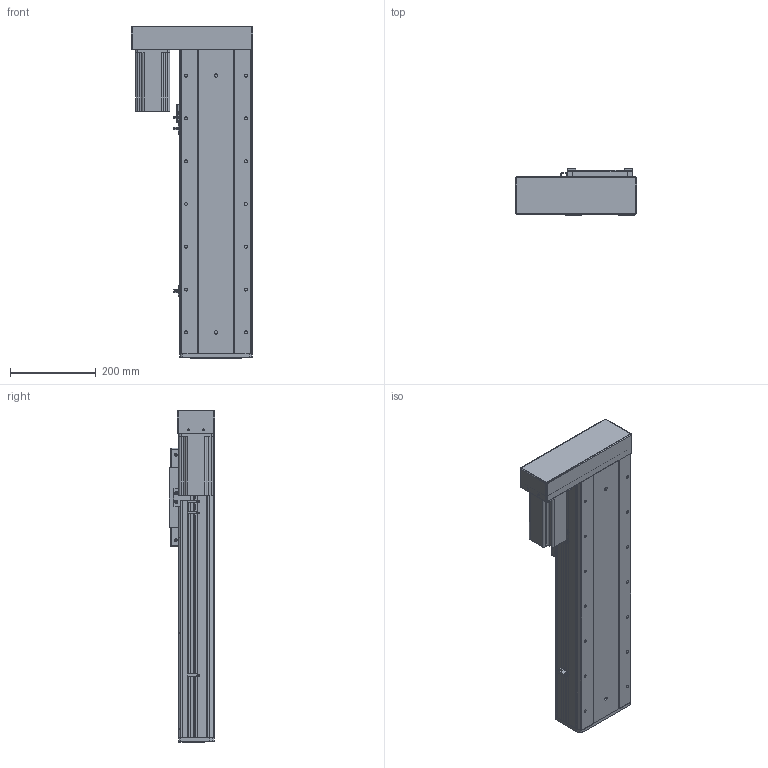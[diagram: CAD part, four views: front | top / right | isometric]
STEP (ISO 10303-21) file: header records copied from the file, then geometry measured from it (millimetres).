
FILE_DESCRIPTION (( 'STEP AP203' ), '1' );
FILE_NAME ('RY170F-L2020-300-LK.SLDASM_400.step', '2021-03-02T09:00:24', ( '盈信电脑' ), ( '东莞市道滘镇水果街19号' ), 'SwSTEP 2.0', 'SolidWorks 2012', '' );
FILE_SCHEMA (( 'CONFIG_CONTROL_DESIGN' ));
Length unit declared in the file: millimetre
Products named in the file (20): RY170F-L2020-300-LK.SLDASM_400; 怢湛750W萇儂ㄗ80遺ㄘ; RY170F-蛌殏萇儂假蚾啣; RY170F酘衵殏萇儂欶; 侐源滅袉蝶; RY170F-酘衵殏萇儂釱; 滅袉蝶18-24; RY170F-詩湍揤踡輸; RY170F俋离覜茼え; RY170F-揤踡謫假蚾粣; RY170F-綴裔啣; 覜茼ん672; RY170F-丝杆铝滑块连接板; RY170F-300眻蟀倰第奻裔啣-LK_400; 滅袉蝶18-10; RY100F-詩湍揤踡謫; RY170F-300眻蟀祥凄詩湍-LK_400; RY170F-佪裝臏賑輸20蹟譫; RY170F-300眻蟀倰第菁釱-LK_400; RY170F-滅鳥奻裔
Assembly tree (24 placements, depth 2):
  RY170F-L2020-300-LK.SLDASM_400
    RY170F-滅鳥奻裔
    RY170F-300眻蟀祥凄詩湍-LK_400
    RY170F-300眻蟀倰第菁釱-LK_400
    RY170F-佪裝臏賑輸20蹟譫
    RY170F-丝杆铝滑块连接板
    RY170F-300眻蟀倰第奻裔啣-LK_400  x2
    滅袉蝶18-10
    RY100F-詩湍揤踡謫
    RY170F-綴裔啣
    覜茼ん672  x3
    RY170F俋离覜茼え
    RY170F-揤踡謫假蚾粣
    RY170F-詩湍揤踡輸  x2
    滅袉蝶18-24
    侐源滅袉蝶  x2
    RY170F-酘衵殏萇儂釱
    RY170F-蛌殏萇儂假蚾啣
    怢湛750W萇儂ㄗ80遺ㄘ
    RY170F酘衵殏萇儂欶
Bounding box: 283 x 107 x 776 mm (x, y, z)
Volume: 5436923.3 mm3; surface area: 1685223.3 mm2
Topology: 24 solids, 24 shells, 1813 faces, 5030 edges, 3198 vertices
Faces by surface type: cylinder 853, plane 760, cone 192, bspline 8
Entity records: 51979 total; most frequent: CARTESIAN_POINT 10522, DIRECTION 8391, ORIENTED_EDGE 8024, EDGE_CURVE 4012, AXIS2_PLACEMENT_3D 3017, VERTEX_POINT 2618, LINE 2357, VECTOR 2357
